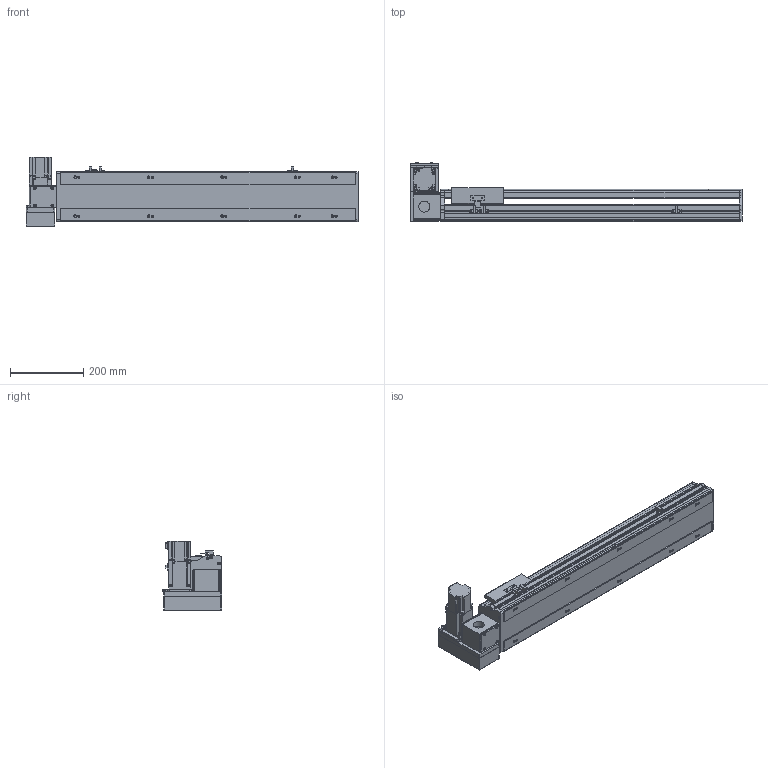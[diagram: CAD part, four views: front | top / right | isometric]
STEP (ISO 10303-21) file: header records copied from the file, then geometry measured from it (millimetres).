
FILE_DESCRIPTION(/* description */ ('STEP AP214'),/* implementation_level */ '2;1');
FILE_NAME(/* name */ 'PBS140S-P40-S550-LU-T40-C1-N(0)',/* time_stamp */ '2022-06-09T02:33:31+02:00',/* author */ ('License CC BY-ND 4.0'),/* organization */ ('CADENAS'),/* preprocessor_version */ 'ST-DEVELOPER v18.102',/* originating_system */ 'PARTsolutions',/* authorisation */ ' ');
FILE_SCHEMA (('AUTOMOTIVE_DESIGN {1 0 10303 214 3 1 1}'));
Length unit declared in the file: millimetre
Products named in the file (7): PBS140S-P40-S550-LU-T40-C1-N(0); PBS140S_sensor; PBS140S_plant; PBS140S_sliser; T40-p1; PBS140ST-LU_motors; PBS140S-S550()_body
Assembly tree (8 placements, depth 2):
  PBS140S-P40-S550-LU-T40-C1-N(0)
    PBS140S_sensor  x3
    PBS140S_plant
    PBS140S_sliser
    T40-p1
    PBS140ST-LU_motors
    PBS140S-S550()_body
Bounding box: 904 x 162.5 x 189.7 mm (x, y, z)
Volume: 4989762.3 mm3; surface area: 883988.2 mm2
Topology: 8 solids, 8 shells, 1051 faces, 2791 edges, 1827 vertices
Faces by surface type: plane 684, cylinder 321, cone 36, sphere 8, torus 2
Full cylindrical faces by diameter (mm): 3.242 x4, 4 x2, 4.134 x4, 4.4 x8, 4.5 x2, 4.8 x4, 4.917 x18, 5.5 x7, 6 x2, 7 x12, 7.5 x8, 8 x12, 8.5 x4, 10.5 x10, 14 x1, 30 x2, 50 x2
Entity records: 30122 total; most frequent: CARTESIAN_POINT 5480, DIRECTION 5138, ORIENTED_EDGE 4882, EDGE_CURVE 2441, AXIS2_PLACEMENT_3D 1769, VERTEX_POINT 1681, LINE 1600, VECTOR 1600
